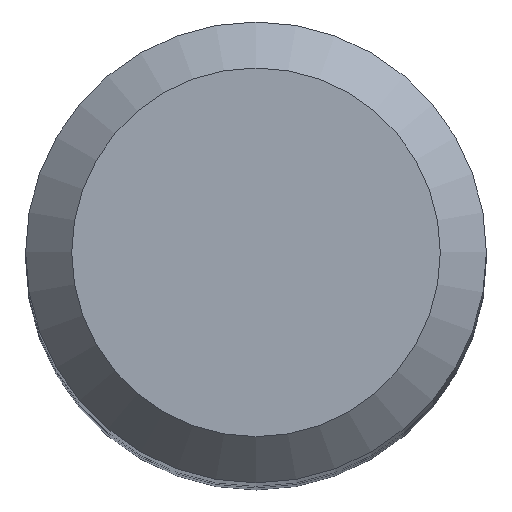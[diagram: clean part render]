
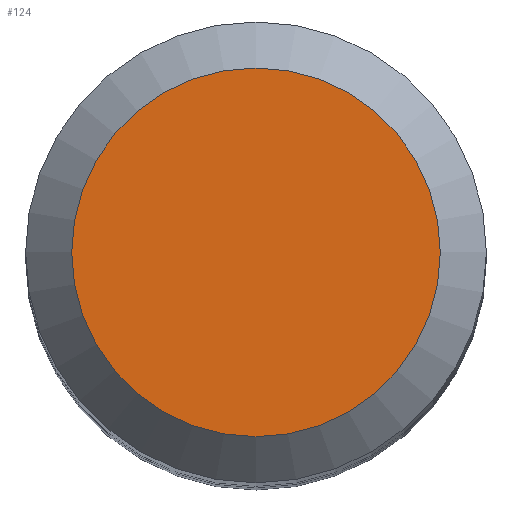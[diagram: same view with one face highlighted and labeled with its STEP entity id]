
A CAD part, top view. The second image highlights one B-rep face of the part: STEP entity #124.
In plain terms, the highlighted planar face has unit normal (0, 0, 1).
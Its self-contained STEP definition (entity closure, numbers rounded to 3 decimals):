
#108=CARTESIAN_POINT('',(4.8,0.0,110.0));
#109=DIRECTION('',(0.0,0.0,1.0));
#110=DIRECTION('',(1.0,0.0,0.0));
#111=AXIS2_PLACEMENT_3D('',#108,#109,#110);
#112=PLANE('',#111);
#113=CARTESIAN_POINT('',(-4.8,0.0,110.0));
#114=VERTEX_POINT('',#113);
#115=CARTESIAN_POINT('',(0.0,0.0,110.0));
#116=DIRECTION('',(0.0,0.0,-1.0));
#117=DIRECTION('',(-1.0,0.0,0.0));
#118=AXIS2_PLACEMENT_3D('',#115,#116,#117);
#119=CIRCLE('',#118,4.8);
#120=EDGE_CURVE('',#114,#114,#119,.T.);
#121=ORIENTED_EDGE('',*,*,#120,.F.);
#122=EDGE_LOOP('',(#121));
#123=FACE_OUTER_BOUND('',#122,.T.);
#124=ADVANCED_FACE('',(#123),#112,.T.);
